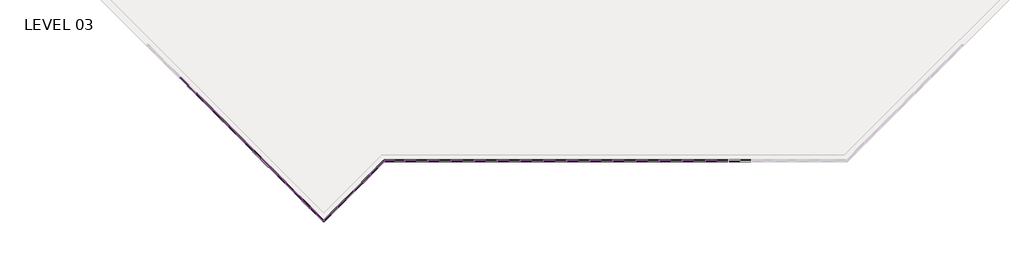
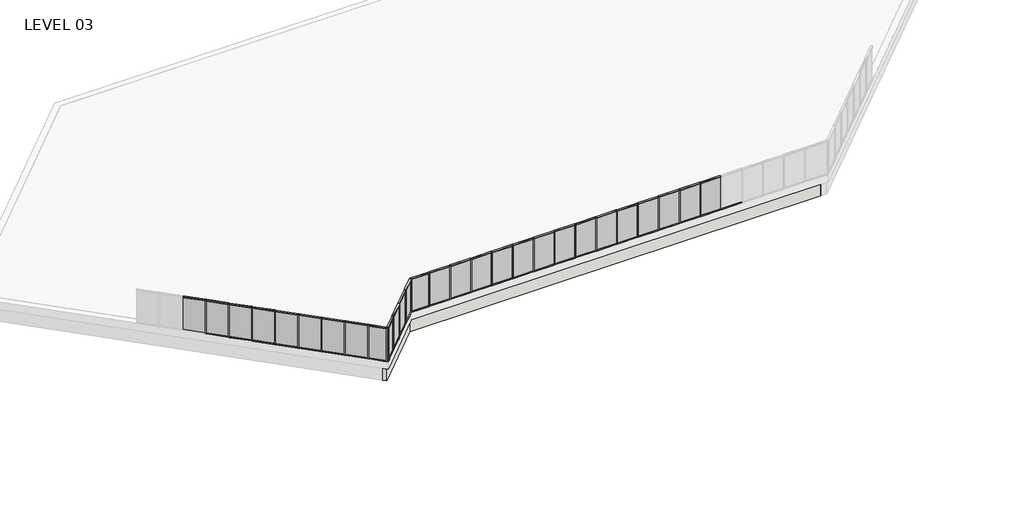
# One storey, part 1 of 18: 85 members, 28 plates, 2 walls.
"""IFC4 building model written with IfcOpenShell, lengths in millimetres."""

from ifc_helpers import new_model, si_unit, origin, place, context, project, spatial, faceted_brep, transform, mapped, element, save
from components import member_5247f267, member_e44af9ab, member_800970d4, member_c23f844a, member_45eb7f2e, member_ed9c17d6, member_53409b32, member_43bac76b, member_0b71a88d, plate_67294edd, plate_50b9cd61, plate_9c66726c, plate_dca6a18a, plate_903242d9, plate_0d1907f3, plate_15429445

model = new_model("IFC4")

# Units and contexts
model_context = context("Model", 3, world=origin())
ifc_project = project(units=[si_unit("LENGTHUNIT", "METRE", prefix="MILLI")], contexts=[model_context])

# Site, building, storey
site = spatial("IfcSite", under=ifc_project)
building = spatial("IfcBuilding", under=site)
storey = spatial("IfcBuildingStorey", under=building, Name="LEVEL 03", Elevation=8280.4)

# Members
placement = place(None, origin())
member_shape = member_5247f267(model_context)
element("IfcMember", 1, ObjectType="Rectangular Mullion : 2\" x 4.5\" rectangular", at=placement, inside=storey, context=model_context, shape_type="MappedRepresentation", body=[
    mapped(member_shape, transform((9409.6310836, -3891.4043471, 8280.4), x_axis=(0.0, 0.0, -1.0), y_axis=(-0.7071067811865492, -0.7071067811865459, 0.0), z_axis=(-0.7071067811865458, 0.7071067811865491, 0.0))),
])
element("IfcMember", 2, ObjectType="Rectangular Mullion : 2\" x 4.5\" rectangular", at=placement, inside=storey, context=model_context, shape_type="MappedRepresentation", body=[
    mapped(member_shape, transform((16592.327111, -7061.3461525, 8280.4), x_axis=(0.0, 0.0, -1.0), y_axis=(0.7071067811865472, -0.7071067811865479, 0.0), z_axis=(-0.7071067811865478, -0.7071067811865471, 0.0))),
])
element("IfcMember", 3, ObjectType="Rectangular Mullion : 2\" x 4.5\" rectangular", at=placement, inside=storey, context=model_context, shape_type="MappedRepresentation", body=[
    mapped(member_shape, transform((19945.35, -5092.0171279, 8280.4), x_axis=(0.0, 0.0, -1.0), y_axis=(0.0, -1.0, 0.0), z_axis=(-1.0, 0.0, 0.0))),
])
element("IfcMember", 4, ObjectType="Rectangular Mullion : 2\" x 4.5\" rectangular", at=placement, inside=storey, context=model_context, shape_type="MappedRepresentation", body=[
    mapped(member_shape, transform((21469.35, -5092.0171279, 8280.4), x_axis=(0.0, 0.0, -1.0), y_axis=(0.0, -1.0, 0.0), z_axis=(-1.0, 0.0, 0.0))),
])
element("IfcMember", 5, ObjectType="Rectangular Mullion : 2\" x 4.5\" rectangular", at=placement, inside=storey, context=model_context, shape_type="MappedRepresentation", body=[
    mapped(member_shape, transform((22993.35, -5092.0171279, 8280.4), x_axis=(0.0, 0.0, -1.0), y_axis=(0.0, -1.0, 0.0), z_axis=(-1.0, 0.0, 0.0))),
])
element("IfcMember", 6, ObjectType="Rectangular Mullion : 2\" x 4.5\" rectangular", at=placement, inside=storey, context=model_context, shape_type="MappedRepresentation", body=[
    mapped(member_shape, transform((29089.35, -5092.0171279, 8280.4), x_axis=(0.0, 0.0, -1.0), y_axis=(0.0, -1.0, 0.0), z_axis=(-1.0, 0.0, 0.0))),
])
element("IfcMember", 7, ObjectType="Rectangular Mullion : 2\" x 4.5\" rectangular", at=placement, inside=storey, context=model_context, shape_type="MappedRepresentation", body=[
    mapped(member_shape, transform((30613.35, -5092.0171279, 8280.4), x_axis=(0.0, 0.0, -1.0), y_axis=(0.0, -1.0, 0.0), z_axis=(-1.0, 0.0, 0.0))),
])
element("IfcMember", 8, ObjectType="Rectangular Mullion : 2\" x 4.5\" rectangular", at=placement, inside=storey, context=model_context, shape_type="MappedRepresentation", body=[
    mapped(member_shape, transform((32137.35, -5092.0171279, 8280.4), x_axis=(0.0, 0.0, -1.0), y_axis=(0.0, -1.0, 0.0), z_axis=(-1.0, 0.0, 0.0))),
])
element("IfcMember", 9, ObjectType="Rectangular Mullion : 2\" x 4.5\" rectangular", at=placement, inside=storey, context=model_context, shape_type="MappedRepresentation", body=[
    mapped(member_shape, transform((35185.35, -5092.0171279, 8280.4), x_axis=(0.0, 0.0, -1.0), y_axis=(0.0, -1.0, 0.0), z_axis=(-1.0, 0.0, 0.0))),
])
element("IfcMember", 10, ObjectType="Rectangular Mullion : 2\" x 4.5\" rectangular", at=placement, inside=storey, context=model_context, shape_type="MappedRepresentation", body=[
    mapped(member_shape, transform((36709.35, -5092.0171279, 8280.4), x_axis=(0.0, 0.0, -1.0), y_axis=(0.0, -1.0, 0.0), z_axis=(-1.0, 0.0, 0.0))),
])
element("IfcMember", 11, ObjectType="Rectangular Mullion : 2\" x 4.5\" rectangular", at=placement, inside=storey, context=model_context, shape_type="MappedRepresentation", body=[
    mapped(member_shape, transform((39757.35, -5092.0171279, 8280.4), x_axis=(0.0, 0.0, -1.0), y_axis=(0.0, -1.0, 0.0), z_axis=(-1.0, 0.0, 0.0))),
])
element("IfcMember", 12, ObjectType="Rectangular Mullion : 2\" x 4.5\" rectangular", at=placement, inside=storey, context=model_context, shape_type="MappedRepresentation", body=[
    mapped(member_shape, transform((24517.35, -5092.0171279, 8280.4), x_axis=(0.0, 0.0, -1.0), y_axis=(0.0, -1.0, 0.0), z_axis=(-1.0, 0.0, 0.0))),
])
element("IfcMember", 13, ObjectType="Rectangular Mullion : 2\" x 4.5\" rectangular", at=placement, inside=storey, context=model_context, shape_type="MappedRepresentation", body=[
    mapped(member_shape, transform((27565.35, -5092.0171279, 8280.4), x_axis=(0.0, 0.0, -1.0), y_axis=(0.0, -1.0, 0.0), z_axis=(-1.0, 0.0, 0.0))),
])
element("IfcMember", 14, ObjectType="Rectangular Mullion : 2\" x 4.5\" rectangular", at=placement, inside=storey, context=model_context, shape_type="MappedRepresentation", body=[
    mapped(member_shape, transform((26041.35, -5092.0171279, 8280.4), x_axis=(0.0, 0.0, -1.0), y_axis=(0.0, -1.0, 0.0), z_axis=(-1.0, 0.0, 0.0))),
])
element("IfcMember", 15, ObjectType="Rectangular Mullion : 2\" x 4.5\" rectangular", at=placement, inside=storey, context=model_context, shape_type="MappedRepresentation", body=[
    mapped(member_shape, transform((38233.35, -5092.0171279, 8280.4), x_axis=(0.0, 0.0, -1.0), y_axis=(0.0, -1.0, 0.0), z_axis=(-1.0, 0.0, 0.0))),
])
element("IfcMember", 16, ObjectType="Rectangular Mullion : 2\" x 4.5\" rectangular", at=placement, inside=storey, context=model_context, shape_type="MappedRepresentation", body=[
    mapped(member_shape, transform((33661.35, -5092.0171279, 8280.4), x_axis=(0.0, 0.0, -1.0), y_axis=(0.0, -1.0, 0.0), z_axis=(-1.0, 0.0, 0.0))),
])
element("IfcMember", 17, ObjectType="Rectangular Mullion : 2\" x 4.5\" rectangular", at=placement, inside=storey, context=model_context, shape_type="MappedRepresentation", body=[
    mapped(member_shape, transform((41281.35, -5092.0171279, 8280.4), x_axis=(0.0, 0.0, -1.0), y_axis=(0.0, -1.0, 0.0), z_axis=(-1.0, 0.0, 0.0))),
])
element("IfcMember", 18, ObjectType="Rectangular Mullion : 2\" x 4.5\" rectangular", at=placement, inside=storey, context=model_context, shape_type="MappedRepresentation", body=[
    mapped(member_shape, transform((10487.2618181, -4969.0350816, 8280.4), x_axis=(0.0, 0.0, -1.0), y_axis=(-0.7071067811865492, -0.7071067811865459, 0.0), z_axis=(-0.7071067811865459, 0.7071067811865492, 0.0))),
])
element("IfcMember", 19, ObjectType="Rectangular Mullion : 2\" x 4.5\" rectangular", at=placement, inside=storey, context=model_context, shape_type="MappedRepresentation", body=[
    mapped(member_shape, transform((11564.8925527, -6046.6658162, 8280.4), x_axis=(0.0, 0.0, -1.0), y_axis=(-0.7071067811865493, -0.7071067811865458, 0.0), z_axis=(-0.7071067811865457, 0.7071067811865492, 0.0))),
])
element("IfcMember", 20, ObjectType="Rectangular Mullion : 2\" x 4.5\" rectangular", at=placement, inside=storey, context=model_context, shape_type="MappedRepresentation", body=[
    mapped(member_shape, transform((12642.5232872, -7124.2965507, 8280.4), x_axis=(0.0, 0.0, -1.0), y_axis=(-0.7071067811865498, -0.7071067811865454, 0.0), z_axis=(-0.7071067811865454, 0.7071067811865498, 0.0))),
])
element("IfcMember", 21, ObjectType="Rectangular Mullion : 2\" x 4.5\" rectangular", at=placement, inside=storey, context=model_context, shape_type="MappedRepresentation", body=[
    mapped(member_shape, transform((15514.6963765, -8138.976887, 8280.4), x_axis=(0.0, 0.0, -1.0), y_axis=(0.7071067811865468, -0.7071067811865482, 0.0), z_axis=(-0.7071067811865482, -0.7071067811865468, 0.0))),
])
element("IfcMember", 22, ObjectType="Rectangular Mullion : 2\" x 4.5\" rectangular", at=placement, inside=storey, context=model_context, shape_type="MappedRepresentation", body=[
    mapped(member_shape, transform((16556.4060865, -7097.267177, 10871.2), x_axis=(0.0, 0.0, 1.0), y_axis=(0.707106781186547, -0.7071067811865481, 0.0), z_axis=(0.707106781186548, 0.7071067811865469, 0.0))),
])
element("IfcMember", 23, ObjectType="Rectangular Mullion : 2\" x 4.5\" rectangular", at=placement, inside=storey, context=model_context, shape_type="MappedRepresentation", body=[
    mapped(member_shape, transform((17634.036821, -6019.6364425, 10871.2), x_axis=(0.0, 0.0, 1.0), y_axis=(0.7071067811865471, -0.707106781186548, 0.0), z_axis=(0.707106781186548, 0.7071067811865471, 0.0))),
])
element("IfcMember", 24, ObjectType="Rectangular Mullion : 2\" x 4.5\" rectangular", at=placement, inside=storey, context=model_context, shape_type="MappedRepresentation", body=[
    mapped(member_shape, transform((21418.55, -5092.0171279, 10871.2), x_axis=(0.0, 0.0, 1.0), y_axis=(0.0, -1.0, 0.0), z_axis=(1.0, 0.0, 0.0))),
])
element("IfcMember", 25, ObjectType="Rectangular Mullion : 2\" x 4.5\" rectangular", at=placement, inside=storey, context=model_context, shape_type="MappedRepresentation", body=[
    mapped(member_shape, transform((22942.55, -5092.0171279, 10871.2), x_axis=(0.0, 0.0, 1.0), y_axis=(0.0, -1.0, 0.0), z_axis=(1.0, 0.0, 0.0))),
])
element("IfcMember", 26, ObjectType="Rectangular Mullion : 2\" x 4.5\" rectangular", at=placement, inside=storey, context=model_context, shape_type="MappedRepresentation", body=[
    mapped(member_shape, transform((29038.55, -5092.0171279, 10871.2), x_axis=(0.0, 0.0, 1.0), y_axis=(0.0, -1.0, 0.0), z_axis=(1.0, 0.0, 0.0))),
])
element("IfcMember", 27, ObjectType="Rectangular Mullion : 2\" x 4.5\" rectangular", at=placement, inside=storey, context=model_context, shape_type="MappedRepresentation", body=[
    mapped(member_shape, transform((30562.55, -5092.0171279, 10871.2), x_axis=(0.0, 0.0, 1.0), y_axis=(0.0, -1.0, 0.0), z_axis=(1.0, 0.0, 0.0))),
])
element("IfcMember", 28, ObjectType="Rectangular Mullion : 2\" x 4.5\" rectangular", at=placement, inside=storey, context=model_context, shape_type="MappedRepresentation", body=[
    mapped(member_shape, transform((32086.55, -5092.0171279, 10871.2), x_axis=(0.0, 0.0, 1.0), y_axis=(0.0, -1.0, 0.0), z_axis=(1.0, 0.0, 0.0))),
])
element("IfcMember", 29, ObjectType="Rectangular Mullion : 2\" x 4.5\" rectangular", at=placement, inside=storey, context=model_context, shape_type="MappedRepresentation", body=[
    mapped(member_shape, transform((35134.55, -5092.0171279, 10871.2), x_axis=(0.0, 0.0, 1.0), y_axis=(0.0, -1.0, 0.0), z_axis=(1.0, 0.0, 0.0))),
])
element("IfcMember", 30, ObjectType="Rectangular Mullion : 2\" x 4.5\" rectangular", at=placement, inside=storey, context=model_context, shape_type="MappedRepresentation", body=[
    mapped(member_shape, transform((36658.55, -5092.0171279, 10871.2), x_axis=(0.0, 0.0, 1.0), y_axis=(0.0, -1.0, 0.0), z_axis=(1.0, 0.0, 0.0))),
])
element("IfcMember", 31, ObjectType="Rectangular Mullion : 2\" x 4.5\" rectangular", at=placement, inside=storey, context=model_context, shape_type="MappedRepresentation", body=[
    mapped(member_shape, transform((39706.55, -5092.0171279, 10871.2), x_axis=(0.0, 0.0, 1.0), y_axis=(0.0, -1.0, 0.0), z_axis=(1.0, 0.0, 0.0))),
])
element("IfcMember", 32, ObjectType="Rectangular Mullion : 2\" x 4.5\" rectangular", at=placement, inside=storey, context=model_context, shape_type="MappedRepresentation", body=[
    mapped(member_shape, transform((24466.55, -5092.0171279, 10871.2), x_axis=(0.0, 0.0, 1.0), y_axis=(0.0, -1.0, 0.0), z_axis=(1.0, 0.0, 0.0))),
])
element("IfcMember", 33, ObjectType="Rectangular Mullion : 2\" x 4.5\" rectangular", at=placement, inside=storey, context=model_context, shape_type="MappedRepresentation", body=[
    mapped(member_shape, transform((27514.55, -5092.0171279, 10871.2), x_axis=(0.0, 0.0, 1.0), y_axis=(0.0, -1.0, 0.0), z_axis=(1.0, 0.0, 0.0))),
])
element("IfcMember", 34, ObjectType="Rectangular Mullion : 2\" x 4.5\" rectangular", at=placement, inside=storey, context=model_context, shape_type="MappedRepresentation", body=[
    mapped(member_shape, transform((25990.55, -5092.0171279, 10871.2), x_axis=(0.0, 0.0, 1.0), y_axis=(0.0, -1.0, 0.0), z_axis=(1.0, 0.0, 0.0))),
])
element("IfcMember", 35, ObjectType="Rectangular Mullion : 2\" x 4.5\" rectangular", at=placement, inside=storey, context=model_context, shape_type="MappedRepresentation", body=[
    mapped(member_shape, transform((38182.55, -5092.0171279, 10871.2), x_axis=(0.0, 0.0, 1.0), y_axis=(0.0, -1.0, 0.0), z_axis=(1.0, 0.0, 0.0))),
])
element("IfcMember", 36, ObjectType="Rectangular Mullion : 2\" x 4.5\" rectangular", at=placement, inside=storey, context=model_context, shape_type="MappedRepresentation", body=[
    mapped(member_shape, transform((33610.55, -5092.0171279, 10871.2), x_axis=(0.0, 0.0, 1.0), y_axis=(0.0, -1.0, 0.0), z_axis=(1.0, 0.0, 0.0))),
])
element("IfcMember", 37, ObjectType="Rectangular Mullion : 2\" x 4.5\" rectangular", at=placement, inside=storey, context=model_context, shape_type="MappedRepresentation", body=[
    mapped(member_shape, transform((41230.55, -5092.0171279, 10871.2), x_axis=(0.0, 0.0, 1.0), y_axis=(0.0, -1.0, 0.0), z_axis=(1.0, 0.0, 0.0))),
])
element("IfcMember", 38, ObjectType="Rectangular Mullion : 2\" x 4.5\" rectangular", at=placement, inside=storey, context=model_context, shape_type="MappedRepresentation", body=[
    mapped(member_shape, transform((10451.3407936, -4933.1140572, 10871.2), x_axis=(0.0, 0.0, 1.0), y_axis=(-0.707106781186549, -0.7071067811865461, 0.0), z_axis=(0.7071067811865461, -0.707106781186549, 0.0))),
])
element("IfcMember", 39, ObjectType="Rectangular Mullion : 2\" x 4.5\" rectangular", at=placement, inside=storey, context=model_context, shape_type="MappedRepresentation", body=[
    mapped(member_shape, transform((11528.9715282, -6010.7447917, 10871.2), x_axis=(0.0, 0.0, 1.0), y_axis=(-0.707106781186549, -0.7071067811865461, 0.0), z_axis=(0.7071067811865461, -0.707106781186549, 0.0))),
])
element("IfcMember", 40, ObjectType="Rectangular Mullion : 2\" x 4.5\" rectangular", at=placement, inside=storey, context=model_context, shape_type="MappedRepresentation", body=[
    mapped(member_shape, transform((12606.6022627, -7088.3755262, 10871.2), x_axis=(0.0, 0.0, 1.0), y_axis=(-0.707106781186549, -0.7071067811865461, 0.0), z_axis=(0.7071067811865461, -0.707106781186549, 0.0))),
])
element("IfcMember", 41, ObjectType="Rectangular Mullion : 2\" x 4.5\" rectangular", at=placement, inside=storey, context=model_context, shape_type="MappedRepresentation", body=[
    mapped(member_shape, transform((13684.2329972, -8166.0062607, 10871.2), x_axis=(0.0, 0.0, 1.0), y_axis=(-0.7071067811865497, -0.7071067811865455, 0.0), z_axis=(0.7071067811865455, -0.7071067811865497, 0.0))),
])
member_2_shape = member_e44af9ab(model_context)
element("IfcMember", 42, ObjectType="Rectangular Mullion : 2\" x 4.5\" rectangular", at=placement, inside=storey, context=model_context, shape_type="MappedRepresentation", body=[
    mapped(member_2_shape, transform((6176.740342, -658.5136055, 8280.4), x_axis=(0.7071067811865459, -0.7071067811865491, 0.0), y_axis=(-0.7071067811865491, -0.7071067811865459, 0.0), z_axis=(0.0, 0.0, -1.0))),
])
element("IfcMember", 43, ObjectType="Rectangular Mullion : 2\" x 4.5\" rectangular", at=placement, inside=storey, context=model_context, shape_type="MappedRepresentation", body=[
    mapped(member_2_shape, transform((7248.3837518, -1730.1570153, 8280.4), x_axis=(0.7071067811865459, -0.7071067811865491, 0.0), y_axis=(-0.7071067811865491, -0.7071067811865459, 0.0), z_axis=(0.0, 0.0, -1.0))),
])
element("IfcMember", 44, ObjectType="Rectangular Mullion : 2\" x 4.5\" rectangular", at=placement, inside=storey, context=model_context, shape_type="MappedRepresentation", body=[
    mapped(member_2_shape, transform((8320.0271616, -2801.8004251, 8280.4), x_axis=(0.7071067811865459, -0.7071067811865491, 0.0), y_axis=(-0.7071067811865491, -0.7071067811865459, 0.0), z_axis=(0.0, 0.0, -1.0))),
])
element("IfcMember", 45, ObjectType="Rectangular Mullion : 2\" x 4.5\" rectangular", at=placement, inside=storey, context=model_context, shape_type="MappedRepresentation", body=[
    mapped(member_2_shape, transform((9391.6705714, -3873.4438349, 8280.4), x_axis=(0.7071067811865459, -0.7071067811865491, 0.0), y_axis=(-0.7071067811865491, -0.7071067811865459, 0.0), z_axis=(0.0, 0.0, -1.0))),
])
element("IfcMember", 46, ObjectType="Rectangular Mullion : 2\" x 4.5\" rectangular", at=placement, inside=storey, context=model_context, shape_type="MappedRepresentation", body=[
    mapped(member_2_shape, transform((16574.3665988, -7079.3066648, 8280.4), x_axis=(0.707106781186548, 0.707106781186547, 0.0), y_axis=(0.707106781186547, -0.707106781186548, 0.0), z_axis=(0.0, 0.0, -1.0))),
])
element("IfcMember", 47, ObjectType="Rectangular Mullion : 2\" x 4.5\" rectangular", at=placement, inside=storey, context=model_context, shape_type="MappedRepresentation", body=[
    mapped(member_2_shape, transform((17651.9973333, -6001.6759302, 8280.4), x_axis=(0.707106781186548, 0.707106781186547, 0.0), y_axis=(0.707106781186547, -0.707106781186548, 0.0), z_axis=(0.0, 0.0, -1.0))),
])
element("IfcMember", 48, ObjectType="Rectangular Mullion : 2\" x 4.5\" rectangular", at=placement, inside=storey, context=model_context, shape_type="MappedRepresentation", body=[
    mapped(member_2_shape, transform((19919.95, -5092.0171279, 8280.4), x_axis=(1.0, 0.0, 0.0), y_axis=(0.0, -1.0, 0.0), z_axis=(0.0, 0.0, -1.0))),
])
element("IfcMember", 49, ObjectType="Rectangular Mullion : 2\" x 4.5\" rectangular", at=placement, inside=storey, context=model_context, shape_type="MappedRepresentation", body=[
    mapped(member_2_shape, transform((21443.95, -5092.0171279, 8280.4), x_axis=(1.0, 0.0, 0.0), y_axis=(0.0, -1.0, 0.0), z_axis=(0.0, 0.0, -1.0))),
])
element("IfcMember", 50, ObjectType="Rectangular Mullion : 2\" x 4.5\" rectangular", at=placement, inside=storey, context=model_context, shape_type="MappedRepresentation", body=[
    mapped(member_2_shape, transform((22967.95, -5092.0171279, 8280.4), x_axis=(1.0, 0.0, 0.0), y_axis=(0.0, -1.0, 0.0), z_axis=(0.0, 0.0, -1.0))),
])
element("IfcMember", 51, ObjectType="Rectangular Mullion : 2\" x 4.5\" rectangular", at=placement, inside=storey, context=model_context, shape_type="MappedRepresentation", body=[
    mapped(member_2_shape, transform((29063.95, -5092.0171279, 8280.4), x_axis=(1.0, 0.0, 0.0), y_axis=(0.0, -1.0, 0.0), z_axis=(0.0, 0.0, -1.0))),
])
element("IfcMember", 52, ObjectType="Rectangular Mullion : 2\" x 4.5\" rectangular", at=placement, inside=storey, context=model_context, shape_type="MappedRepresentation", body=[
    mapped(member_2_shape, transform((30587.95, -5092.0171279, 8280.4), x_axis=(1.0, 0.0, 0.0), y_axis=(0.0, -1.0, 0.0), z_axis=(0.0, 0.0, -1.0))),
])
element("IfcMember", 53, ObjectType="Rectangular Mullion : 2\" x 4.5\" rectangular", at=placement, inside=storey, context=model_context, shape_type="MappedRepresentation", body=[
    mapped(member_2_shape, transform((32111.95, -5092.0171279, 8280.4), x_axis=(1.0, 0.0, 0.0), y_axis=(0.0, -1.0, 0.0), z_axis=(0.0, 0.0, -1.0))),
])
element("IfcMember", 54, ObjectType="Rectangular Mullion : 2\" x 4.5\" rectangular", at=placement, inside=storey, context=model_context, shape_type="MappedRepresentation", body=[
    mapped(member_2_shape, transform((35159.95, -5092.0171279, 8280.4), x_axis=(1.0, 0.0, 0.0), y_axis=(0.0, -1.0, 0.0), z_axis=(0.0, 0.0, -1.0))),
])
element("IfcMember", 55, ObjectType="Rectangular Mullion : 2\" x 4.5\" rectangular", at=placement, inside=storey, context=model_context, shape_type="MappedRepresentation", body=[
    mapped(member_2_shape, transform((36683.95, -5092.0171279, 8280.4), x_axis=(1.0, 0.0, 0.0), y_axis=(0.0, -1.0, 0.0), z_axis=(0.0, 0.0, -1.0))),
])
element("IfcMember", 56, ObjectType="Rectangular Mullion : 2\" x 4.5\" rectangular", at=placement, inside=storey, context=model_context, shape_type="MappedRepresentation", body=[
    mapped(member_2_shape, transform((39731.95, -5092.0171279, 8280.4), x_axis=(1.0, 0.0, 0.0), y_axis=(0.0, -1.0, 0.0), z_axis=(0.0, 0.0, -1.0))),
])
element("IfcMember", 57, ObjectType="Rectangular Mullion : 2\" x 4.5\" rectangular", at=placement, inside=storey, context=model_context, shape_type="MappedRepresentation", body=[
    mapped(member_2_shape, transform((24491.95, -5092.0171279, 8280.4), x_axis=(1.0, 0.0, 0.0), y_axis=(0.0, -1.0, 0.0), z_axis=(0.0, 0.0, -1.0))),
])
element("IfcMember", 58, ObjectType="Rectangular Mullion : 2\" x 4.5\" rectangular", at=placement, inside=storey, context=model_context, shape_type="MappedRepresentation", body=[
    mapped(member_2_shape, transform((27539.95, -5092.0171279, 8280.4), x_axis=(1.0, 0.0, 0.0), y_axis=(0.0, -1.0, 0.0), z_axis=(0.0, 0.0, -1.0))),
])
element("IfcMember", 59, ObjectType="Rectangular Mullion : 2\" x 4.5\" rectangular", at=placement, inside=storey, context=model_context, shape_type="MappedRepresentation", body=[
    mapped(member_2_shape, transform((26015.95, -5092.0171279, 8280.4), x_axis=(1.0, 0.0, 0.0), y_axis=(0.0, -1.0, 0.0), z_axis=(0.0, 0.0, -1.0))),
])
element("IfcMember", 60, ObjectType="Rectangular Mullion : 2\" x 4.5\" rectangular", at=placement, inside=storey, context=model_context, shape_type="MappedRepresentation", body=[
    mapped(member_2_shape, transform((38207.95, -5092.0171279, 8280.4), x_axis=(1.0, 0.0, 0.0), y_axis=(0.0, -1.0, 0.0), z_axis=(0.0, 0.0, -1.0))),
])
element("IfcMember", 61, ObjectType="Rectangular Mullion : 2\" x 4.5\" rectangular", at=placement, inside=storey, context=model_context, shape_type="MappedRepresentation", body=[
    mapped(member_2_shape, transform((33635.95, -5092.0171279, 8280.4), x_axis=(1.0, 0.0, 0.0), y_axis=(0.0, -1.0, 0.0), z_axis=(0.0, 0.0, -1.0))),
])
element("IfcMember", 62, ObjectType="Rectangular Mullion : 2\" x 4.5\" rectangular", at=placement, inside=storey, context=model_context, shape_type="MappedRepresentation", body=[
    mapped(member_2_shape, transform((10469.3013059, -4951.0745694, 8280.4), x_axis=(0.7071067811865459, -0.7071067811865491, 0.0), y_axis=(-0.7071067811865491, -0.7071067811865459, 0.0), z_axis=(0.0, 0.0, -1.0))),
])
element("IfcMember", 63, ObjectType="Rectangular Mullion : 2\" x 4.5\" rectangular", at=placement, inside=storey, context=model_context, shape_type="MappedRepresentation", body=[
    mapped(member_2_shape, transform((11546.9320404, -6028.7053039, 8280.4), x_axis=(0.7071067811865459, -0.7071067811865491, 0.0), y_axis=(-0.7071067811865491, -0.7071067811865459, 0.0), z_axis=(0.0, 0.0, -1.0))),
])
element("IfcMember", 64, ObjectType="Rectangular Mullion : 2\" x 4.5\" rectangular", at=placement, inside=storey, context=model_context, shape_type="MappedRepresentation", body=[
    mapped(member_2_shape, transform((12624.5627749, -7106.3360385, 8280.4), x_axis=(0.7071067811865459, -0.7071067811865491, 0.0), y_axis=(-0.7071067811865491, -0.7071067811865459, 0.0), z_axis=(0.0, 0.0, -1.0))),
])
element("IfcMember", 65, ObjectType="Rectangular Mullion : 2\" x 4.5\" rectangular", at=placement, inside=storey, context=model_context, shape_type="MappedRepresentation", body=[
    mapped(member_2_shape, transform((13702.1935095, -8183.966773, 8280.4), x_axis=(0.7071067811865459, -0.7071067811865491, 0.0), y_axis=(-0.7071067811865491, -0.7071067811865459, 0.0), z_axis=(0.0, 0.0, -1.0))),
])
element("IfcMember", 66, ObjectType="Rectangular Mullion : 2\" x 4.5\" rectangular", at=placement, inside=storey, context=model_context, shape_type="MappedRepresentation", body=[
    mapped(member_2_shape, transform((15496.7358642, -8156.9373993, 8280.4), x_axis=(0.707106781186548, 0.707106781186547, 0.0), y_axis=(0.707106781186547, -0.707106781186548, 0.0), z_axis=(0.0, 0.0, -1.0))),
])
member_3_shape = member_800970d4(model_context)
element("IfcMember", 67, ObjectType="Rectangular Mullion : 2\" x 4.5\" rectangular", at=placement, inside=storey, context=model_context, shape_type="MappedRepresentation", body=[
    mapped(member_3_shape, transform((14585.95, -9067.7232635, 8280.4), x_axis=(0.7071067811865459, -0.7071067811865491, 0.0), y_axis=(-0.7071067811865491, -0.7071067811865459, 0.0), z_axis=(0.0, 0.0, -1.0))),
])
element("IfcMember", 68, ObjectType="Rectangular Mullion : 2\" x 4.5\" rectangular", at=placement, inside=storey, context=model_context, shape_type="MappedRepresentation", body=[
    mapped(member_3_shape, transform((18561.6561356, -5092.0171279, 8280.4), x_axis=(0.707106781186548, 0.707106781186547, 0.0), y_axis=(0.707106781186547, -0.707106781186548, 0.0), z_axis=(0.0, 0.0, -1.0))),
])
element("IfcMember", 69, ObjectType="Rectangular Mullion : 2\" x 4.5\" rectangular", at=placement, inside=storey, context=model_context, shape_type="MappedRepresentation", body=[
    mapped(member_3_shape, transform((14585.95, -9067.7232635, 10871.2), x_axis=(-0.707106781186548, -0.707106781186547, 0.0), y_axis=(0.707106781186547, -0.707106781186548, 0.0), z_axis=(0.0, 0.0, 1.0))),
])
element("IfcMember", 70, ObjectType="Rectangular Mullion : 2\" x 4.5\" rectangular", at=placement, inside=storey, context=model_context, shape_type="MappedRepresentation", body=[
    mapped(member_3_shape, transform((18561.6561356, -5092.0171279, 10871.2), x_axis=(-1.0, 0.0, 0.0), y_axis=(0.0, -1.0, 0.0), z_axis=(0.0, 0.0, 1.0))),
])
member_4_shape = member_c23f844a(model_context)
element("IfcMember", 71, ObjectType="Rectangular Mullion : 2\" x 4.5\" rectangular", at=placement, inside=storey, context=model_context, shape_type="MappedRepresentation", body=[
    mapped(member_4_shape, transform((7230.4232395, -1712.196503, 10871.2), x_axis=(0.0, 0.0, 1.0), y_axis=(-0.7071067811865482, -0.7071067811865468, 0.0), z_axis=(0.7071067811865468, -0.7071067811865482, 0.0))),
])
element("IfcMember", 72, ObjectType="Rectangular Mullion : 2\" x 4.5\" rectangular", at=placement, inside=storey, context=model_context, shape_type="MappedRepresentation", body=[
    mapped(member_4_shape, transform((8302.0666493, -2783.8399128, 10871.2), x_axis=(0.0, 0.0, 1.0), y_axis=(-0.7071067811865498, -0.7071067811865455, 0.0), z_axis=(0.7071067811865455, -0.7071067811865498, 0.0))),
])
element("IfcMember", 73, ObjectType="Rectangular Mullion : 2\" x 4.5\" rectangular", at=placement, inside=storey, context=model_context, shape_type="MappedRepresentation", body=[
    mapped(member_4_shape, transform((9373.7100591, -3855.4833226, 10871.2), x_axis=(0.0, 0.0, 1.0), y_axis=(-0.707106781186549, -0.7071067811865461, 0.0), z_axis=(0.707106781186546, -0.7071067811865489, 0.0))),
])
element("IfcMember", 74, ObjectType="Rectangular Mullion : 2\" x 4.5\" rectangular", at=placement, inside=storey, context=model_context, shape_type="MappedRepresentation", body=[
    mapped(member_4_shape, transform((6194.7008542, -676.4741177, 8280.4), x_axis=(0.0, 0.0, -1.0), y_axis=(-0.7071067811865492, -0.7071067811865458, 0.0), z_axis=(-0.7071067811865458, 0.7071067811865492, 0.0))),
])
element("IfcMember", 75, ObjectType="Rectangular Mullion : 2\" x 4.5\" rectangular", at=placement, inside=storey, context=model_context, shape_type="MappedRepresentation", body=[
    mapped(member_4_shape, transform((7266.344264, -1748.1175275, 8280.4), x_axis=(0.0, 0.0, -1.0), y_axis=(-0.7071067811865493, -0.7071067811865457, 0.0), z_axis=(-0.7071067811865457, 0.7071067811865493, 0.0))),
])
element("IfcMember", 76, ObjectType="Rectangular Mullion : 2\" x 4.5\" rectangular", at=placement, inside=storey, context=model_context, shape_type="MappedRepresentation", body=[
    mapped(member_4_shape, transform((8337.9876738, -2819.7609373, 8280.4), x_axis=(0.0, 0.0, -1.0), y_axis=(-0.7071067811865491, -0.707106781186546, 0.0), z_axis=(-0.7071067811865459, 0.707106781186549, 0.0))),
])
member_5_shape = member_45eb7f2e(model_context)
element("IfcMember", 77, ObjectType="Rectangular Mullion : 2\" x 4.5\" rectangular", at=placement, inside=storey, context=model_context, shape_type="MappedRepresentation", body=[
    mapped(member_5_shape, transform((19894.55, -5092.0171279, 10871.2), x_axis=(0.0, 0.0, 1.0), y_axis=(0.0, -1.0, 0.0), z_axis=(1.0, 0.0, 0.0))),
])
element("IfcMember", 78, ObjectType="Rectangular Mullion : 2\" x 4.5\" rectangular", at=placement, inside=storey, context=model_context, shape_type="MappedRepresentation", body=[
    mapped(member_5_shape, transform((18612.4561356, -5092.0171279, 8280.4), x_axis=(0.0, 0.0, -1.0), y_axis=(0.0, -1.0, 0.0), z_axis=(-1.0, 0.0, 0.0))),
])
member_6_shape = member_ed9c17d6(model_context)
element("IfcMember", 79, ObjectType="Rectangular Mullion : 2\" x 4.5\" rectangular", at=placement, inside=storey, context=model_context, shape_type="MappedRepresentation", body=[
    mapped(member_6_shape, transform((6158.7798297, -640.5530932, 10871.2), x_axis=(0.0, 0.0, 1.0), y_axis=(-0.7071067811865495, -0.7071067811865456, 0.0), z_axis=(0.7071067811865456, -0.7071067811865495, 0.0))),
])
member_7_shape = member_53409b32(model_context)
element("IfcMember", 80, ObjectType="Rectangular Mullion : 2\" x 4.5\" rectangular", at=placement, inside=storey, context=model_context, shape_type="MappedRepresentation", body=[
    mapped(member_7_shape, transform((14550.0289755, -9031.802239, 10871.2), x_axis=(0.0, 0.0, 1.0), y_axis=(-0.7071067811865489, -0.7071067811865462, 0.0), z_axis=(0.7071067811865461, -0.7071067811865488, 0.0))),
])
element("IfcMember", 81, ObjectType="Rectangular Mullion : 2\" x 4.5\" rectangular", at=placement, inside=storey, context=model_context, shape_type="MappedRepresentation", body=[
    mapped(member_7_shape, transform((13720.1540217, -8201.9272852, 8280.4), x_axis=(0.0, 0.0, -1.0), y_axis=(-0.7071067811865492, -0.7071067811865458, 0.0), z_axis=(-0.7071067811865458, 0.7071067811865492, 0.0))),
])
member_8_shape = member_43bac76b(model_context)
element("IfcMember", 82, ObjectType="Rectangular Mullion : 2\" x 4.5\" rectangular", at=placement, inside=storey, context=model_context, shape_type="MappedRepresentation", body=[
    mapped(member_8_shape, transform((18525.7351111, -5127.9381524, 10871.2), x_axis=(0.0, 0.0, 1.0), y_axis=(0.7071067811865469, -0.7071067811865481, 0.0), z_axis=(0.7071067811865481, 0.7071067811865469, 0.0))),
])
element("IfcMember", 83, ObjectType="Rectangular Mullion : 2\" x 4.5\" rectangular", at=placement, inside=storey, context=model_context, shape_type="MappedRepresentation", body=[
    mapped(member_8_shape, transform((17669.9578455, -5983.715418, 8280.4), x_axis=(0.0, 0.0, -1.0), y_axis=(0.7071067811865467, -0.7071067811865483, 0.0), z_axis=(-0.7071067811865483, -0.7071067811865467, 0.0))),
])
member_9_shape = member_0b71a88d(model_context)
element("IfcMember", 84, ObjectType="Rectangular Mullion : 2\" x 4.5\" rectangular", at=placement, inside=storey, context=model_context, shape_type="MappedRepresentation", body=[
    mapped(member_9_shape, transform((14621.8710245, -9031.802239, 8280.4), x_axis=(0.0, 0.0, -1.0), y_axis=(0.7071067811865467, -0.7071067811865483, 0.0), z_axis=(-0.7071067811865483, -0.7071067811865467, 0.0))),
])
element("IfcMember", 85, ObjectType="Rectangular Mullion : 2\" x 4.5\" rectangular", at=placement, inside=storey, context=model_context, shape_type="MappedRepresentation", body=[
    mapped(member_9_shape, transform((15478.775352, -8174.8979115, 10871.2), x_axis=(0.0, 0.0, 1.0), y_axis=(0.7071067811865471, -0.707106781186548, 0.0), z_axis=(0.707106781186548, 0.7071067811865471, 0.0))),
])

# Plates
plate_shape = plate_67294edd(model_context)
element("IfcPlate", 86, ObjectType="System Panel : 1/4\" Glass", at=placement, inside=storey, context=model_context, shape_type="MappedRepresentation", body=[
    mapped(plate_shape, transform((9930.4859386, -4412.2592021, 8331.2), x_axis=(0.7071067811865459, -0.7071067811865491, 0.0), y_axis=(0.7071067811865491, 0.7071067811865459, 0.0), z_axis=(0.0, 0.0, 1.0))),
])
element("IfcPlate", 87, ObjectType="System Panel : 1/4\" Glass", at=placement, inside=storey, context=model_context, shape_type="MappedRepresentation", body=[
    mapped(plate_shape, transform((17113.181966, -6540.4912975, 8331.2), x_axis=(0.707106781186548, 0.707106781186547, 0.0), y_axis=(-0.707106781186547, 0.707106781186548, 0.0), z_axis=(0.0, 0.0, 1.0))),
])
element("IfcPlate", 88, ObjectType="System Panel : 1/4\" Glass", at=placement, inside=storey, context=model_context, shape_type="MappedRepresentation", body=[
    mapped(plate_shape, transform((20681.95, -5092.0171279, 8331.2), x_axis=(1.0, 0.0, 0.0), y_axis=(0.0, 1.0, 0.0), z_axis=(0.0, 0.0, 1.0))),
])
element("IfcPlate", 89, ObjectType="System Panel : 1/4\" Glass", at=placement, inside=storey, context=model_context, shape_type="MappedRepresentation", body=[
    mapped(plate_shape, transform((22205.95, -5092.0171279, 8331.2), x_axis=(1.0, 0.0, 0.0), y_axis=(0.0, 1.0, 0.0), z_axis=(0.0, 0.0, 1.0))),
])
element("IfcPlate", 90, ObjectType="System Panel : 1/4\" Glass", at=placement, inside=storey, context=model_context, shape_type="MappedRepresentation", body=[
    mapped(plate_shape, transform((23729.95, -5092.0171279, 8331.2), x_axis=(1.0, 0.0, 0.0), y_axis=(0.0, 1.0, 0.0), z_axis=(0.0, 0.0, 1.0))),
])
element("IfcPlate", 91, ObjectType="System Panel : 1/4\" Glass", at=placement, inside=storey, context=model_context, shape_type="MappedRepresentation", body=[
    mapped(plate_shape, transform((29825.95, -5092.0171279, 8331.2), x_axis=(1.0, 0.0, 0.0), y_axis=(0.0, 1.0, 0.0), z_axis=(0.0, 0.0, 1.0))),
])
element("IfcPlate", 92, ObjectType="System Panel : 1/4\" Glass", at=placement, inside=storey, context=model_context, shape_type="MappedRepresentation", body=[
    mapped(plate_shape, transform((31349.95, -5092.0171279, 8331.2), x_axis=(1.0, 0.0, 0.0), y_axis=(0.0, 1.0, 0.0), z_axis=(0.0, 0.0, 1.0))),
])
element("IfcPlate", 93, ObjectType="System Panel : 1/4\" Glass", at=placement, inside=storey, context=model_context, shape_type="MappedRepresentation", body=[
    mapped(plate_shape, transform((32873.95, -5092.0171279, 8331.2), x_axis=(1.0, 0.0, 0.0), y_axis=(0.0, 1.0, 0.0), z_axis=(0.0, 0.0, 1.0))),
])
element("IfcPlate", 94, ObjectType="System Panel : 1/4\" Glass", at=placement, inside=storey, context=model_context, shape_type="MappedRepresentation", body=[
    mapped(plate_shape, transform((35921.95, -5092.0171279, 8331.2), x_axis=(1.0, 0.0, 0.0), y_axis=(0.0, 1.0, 0.0), z_axis=(0.0, 0.0, 1.0))),
])
element("IfcPlate", 95, ObjectType="System Panel : 1/4\" Glass", at=placement, inside=storey, context=model_context, shape_type="MappedRepresentation", body=[
    mapped(plate_shape, transform((37445.95, -5092.0171279, 8331.2), x_axis=(1.0, 0.0, 0.0), y_axis=(0.0, 1.0, 0.0), z_axis=(0.0, 0.0, 1.0))),
])
element("IfcPlate", 96, ObjectType="System Panel : 1/4\" Glass", at=placement, inside=storey, context=model_context, shape_type="MappedRepresentation", body=[
    mapped(plate_shape, transform((40493.95, -5092.0171279, 8331.2), x_axis=(1.0, 0.0, 0.0), y_axis=(0.0, 1.0, 0.0), z_axis=(0.0, 0.0, 1.0))),
])
element("IfcPlate", 97, ObjectType="System Panel : 1/4\" Glass", at=placement, inside=storey, context=model_context, shape_type="MappedRepresentation", body=[
    mapped(plate_shape, transform((25253.95, -5092.0171279, 8331.2), x_axis=(1.0, 0.0, 0.0), y_axis=(0.0, 1.0, 0.0), z_axis=(0.0, 0.0, 1.0))),
])
element("IfcPlate", 98, ObjectType="System Panel : 1/4\" Glass", at=placement, inside=storey, context=model_context, shape_type="MappedRepresentation", body=[
    mapped(plate_shape, transform((28301.95, -5092.0171279, 8331.2), x_axis=(1.0, 0.0, 0.0), y_axis=(0.0, 1.0, 0.0), z_axis=(0.0, 0.0, 1.0))),
])
element("IfcPlate", 99, ObjectType="System Panel : 1/4\" Glass", at=placement, inside=storey, context=model_context, shape_type="MappedRepresentation", body=[
    mapped(plate_shape, transform((26777.95, -5092.0171279, 8331.2), x_axis=(1.0, 0.0, 0.0), y_axis=(0.0, 1.0, 0.0), z_axis=(0.0, 0.0, 1.0))),
])
element("IfcPlate", 100, ObjectType="System Panel : 1/4\" Glass", at=placement, inside=storey, context=model_context, shape_type="MappedRepresentation", body=[
    mapped(plate_shape, transform((38969.95, -5092.0171279, 8331.2), x_axis=(1.0, 0.0, 0.0), y_axis=(0.0, 1.0, 0.0), z_axis=(0.0, 0.0, 1.0))),
])
element("IfcPlate", 101, ObjectType="System Panel : 1/4\" Glass", at=placement, inside=storey, context=model_context, shape_type="MappedRepresentation", body=[
    mapped(plate_shape, transform((34397.95, -5092.0171279, 8331.2), x_axis=(1.0, 0.0, 0.0), y_axis=(0.0, 1.0, 0.0), z_axis=(0.0, 0.0, 1.0))),
])
element("IfcPlate", 102, ObjectType="System Panel : 1/4\" Glass", at=placement, inside=storey, context=model_context, shape_type="MappedRepresentation", body=[
    mapped(plate_shape, transform((11008.1166732, -5489.8899367, 8331.2), x_axis=(0.7071067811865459, -0.7071067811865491, 0.0), y_axis=(0.7071067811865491, 0.7071067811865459, 0.0), z_axis=(0.0, 0.0, 1.0))),
])
element("IfcPlate", 103, ObjectType="System Panel : 1/4\" Glass", at=placement, inside=storey, context=model_context, shape_type="MappedRepresentation", body=[
    mapped(plate_shape, transform((12085.7474077, -6567.5206712, 8331.2), x_axis=(0.7071067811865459, -0.7071067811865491, 0.0), y_axis=(0.7071067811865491, 0.7071067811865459, 0.0), z_axis=(0.0, 0.0, 1.0))),
])
element("IfcPlate", 104, ObjectType="System Panel : 1/4\" Glass", at=placement, inside=storey, context=model_context, shape_type="MappedRepresentation", body=[
    mapped(plate_shape, transform((13163.3781422, -7645.1514057, 8331.2), x_axis=(0.7071067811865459, -0.7071067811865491, 0.0), y_axis=(0.7071067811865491, 0.7071067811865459, 0.0), z_axis=(0.0, 0.0, 1.0))),
])
element("IfcPlate", 105, ObjectType="System Panel : 1/4\" Glass", at=placement, inside=storey, context=model_context, shape_type="MappedRepresentation", body=[
    mapped(plate_shape, transform((16035.5512315, -7618.122032, 8331.2), x_axis=(0.707106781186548, 0.707106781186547, 0.0), y_axis=(-0.707106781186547, 0.707106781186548, 0.0), z_axis=(0.0, 0.0, 1.0))),
])
plate_2_shape = plate_50b9cd61(model_context)
element("IfcPlate", 106, ObjectType="System Panel : 1/4\" Glass", at=placement, inside=storey, context=model_context, shape_type="MappedRepresentation", body=[
    mapped(plate_2_shape, transform((6712.5620469, -1194.3353104, 8331.2), x_axis=(0.7071067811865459, -0.7071067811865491, 0.0), y_axis=(0.7071067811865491, 0.7071067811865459, 0.0), z_axis=(0.0, 0.0, 1.0))),
])
element("IfcPlate", 107, ObjectType="System Panel : 1/4\" Glass", at=placement, inside=storey, context=model_context, shape_type="MappedRepresentation", body=[
    mapped(plate_2_shape, transform((7784.2054567, -2265.9787202, 8331.2), x_axis=(0.7071067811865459, -0.7071067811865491, 0.0), y_axis=(0.7071067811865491, 0.7071067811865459, 0.0), z_axis=(0.0, 0.0, 1.0))),
])
element("IfcPlate", 108, ObjectType="System Panel : 1/4\" Glass", at=placement, inside=storey, context=model_context, shape_type="MappedRepresentation", body=[
    mapped(plate_2_shape, transform((8855.8488665, -3337.62213, 8331.2), x_axis=(0.7071067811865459, -0.7071067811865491, 0.0), y_axis=(0.7071067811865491, 0.7071067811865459, 0.0), z_axis=(0.0, 0.0, 1.0))),
])
plate_3_shape = plate_9c66726c(model_context)
element("IfcPlate", 109, ObjectType="System Panel : 1/4\" Glass", at=placement, inside=storey, context=model_context, shape_type="MappedRepresentation", body=[
    mapped(plate_3_shape, transform((19253.5030678, -5092.0171279, 8331.2), x_axis=(1.0, 0.0, 0.0), y_axis=(0.0, 1.0, 0.0), z_axis=(0.0, 0.0, 1.0))),
])
plate_4_shape = plate_dca6a18a(model_context)
element("IfcPlate", 110, ObjectType="System Panel : 1/4\" Glass", at=placement, inside=storey, context=model_context, shape_type="MappedRepresentation", body=[
    mapped(plate_4_shape, transform((5639.4307395, -121.204003, 8331.2), x_axis=(0.7071067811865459, -0.7071067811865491, 0.0), y_axis=(0.7071067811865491, 0.7071067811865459, 0.0), z_axis=(0.0, 0.0, 1.0))),
])
plate_5_shape = plate_903242d9(model_context)
element("IfcPlate", 111, ObjectType="System Panel : 1/4\" Glass", at=placement, inside=storey, context=model_context, shape_type="MappedRepresentation", body=[
    mapped(plate_5_shape, transform((14135.0914986, -8616.8647621, 8331.2), x_axis=(0.7071067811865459, -0.7071067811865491, 0.0), y_axis=(0.7071067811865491, 0.7071067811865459, 0.0), z_axis=(0.0, 0.0, 1.0))),
])
plate_6_shape = plate_0d1907f3(model_context)
element("IfcPlate", 112, ObjectType="System Panel : 1/4\" Glass", at=placement, inside=storey, context=model_context, shape_type="MappedRepresentation", body=[
    mapped(plate_6_shape, transform((18097.8464783, -5555.8267852, 8331.2), x_axis=(0.707106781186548, 0.707106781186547, 0.0), y_axis=(-0.707106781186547, 0.707106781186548, 0.0), z_axis=(0.0, 0.0, 1.0))),
])
plate_7_shape = plate_15429445(model_context)
element("IfcPlate", 113, ObjectType="System Panel : 1/4\" Glass", at=placement, inside=storey, context=model_context, shape_type="MappedRepresentation", body=[
    mapped(plate_7_shape, transform((15050.3231882, -8603.3500753, 8331.2), x_axis=(0.707106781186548, 0.707106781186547, 0.0), y_axis=(-0.707106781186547, 0.707106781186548, 0.0), z_axis=(0.0, 0.0, 1.0))),
])

# Walls
element("IfcWall", 114, ObjectType="01-CONCRETE-12", at=placement, inside=storey, context=model_context, shape_type="Brep", body=[
    faceted_brep([(48896.992049, -4742.7671279, 6731.0), (48402.8136083, -4742.7671279, 6731.0), (41687.0022938, -4742.7671279, 6731.0), (40824.8977062, -4742.7671279, 6731.0), (34067.0022938, -4742.7671279, 6731.0), (33204.8977062, -4742.7671279, 6731.0), (26447.0022938, -4742.7671279, 6731.0), (25584.8977062, -4742.7671279, 6731.0), (18827.0022938, -4742.7671279, 6731.0), (18416.992049, -4742.7671279, 6731.0), (18416.992049, -4742.7671279, 7721.6), (18827.0022938, -4742.7671279, 7721.6), (25584.8977062, -4742.7671279, 7721.6), (26447.0022938, -4742.7671279, 7721.6), (33204.8977062, -4742.7671279, 7721.6), (34067.0022938, -4742.7671279, 7721.6), (40824.8977062, -4742.7671279, 7721.6), (41687.0022938, -4742.7671279, 7721.6), (48402.8136083, -4742.7671279, 7721.6), (48896.992049, -4742.7671279, 7721.6), (48592.192049, -5047.5671279, 6731.0), (48592.192049, -5047.5671279, 7721.6), (18543.2443428, -5047.5671279, 7721.6), (18112.192049, -5047.5671279, 7721.6), (18112.192049, -5047.5671279, 6731.0), (18543.2443428, -5047.5671279, 6731.0), (18171.2302052, -4988.5289716, 6731.0), (18171.2302052, -4988.5289716, 7721.6)], [[[0, 1, 2, 3, 4, 5, 6, 7, 8, 9, 10, 11, 12, 13, 14, 15, 16, 17, 18, 19]], [[20, 21, 22, 23, 24, 25]], [[9, 8, 7, 6, 5, 4, 3, 2, 1, 0, 20, 25, 24, 26]], [[19, 18, 17, 16, 15, 14, 13, 12, 11, 10, 27, 23, 22, 21]], [[0, 19, 21, 20]], [[10, 9, 26, 24, 23, 27]]]),
])
element("IfcWall", 115, ObjectType="01-CONCRETE-12", at=placement, inside=storey, context=model_context, shape_type="Brep", body=[
    faceted_brep([(18112.192049, -5047.5671279, 6731.0), (14585.95, -8573.8091769, 6731.0), (14370.4238531, -8789.3353238, 6731.0), (14370.4238531, -8789.3353238, 7721.6), (14585.95, -8573.8091769, 7721.6), (18112.192049, -5047.5671279, 7721.6), (18543.2443428, -5047.5671279, 6731.0), (18543.2443428, -5047.5671279, 7721.6), (14585.95, -9004.8614707, 7721.6), (14585.95, -9004.8614707, 6731.0)], [[[0, 1, 2, 3, 4, 5]], [[6, 7, 8, 9]], [[2, 1, 0, 6, 9]], [[5, 4, 3, 8, 7]], [[0, 5, 7, 6]], [[3, 2, 9, 8]]]),
])

save(model, "model.ifc")
